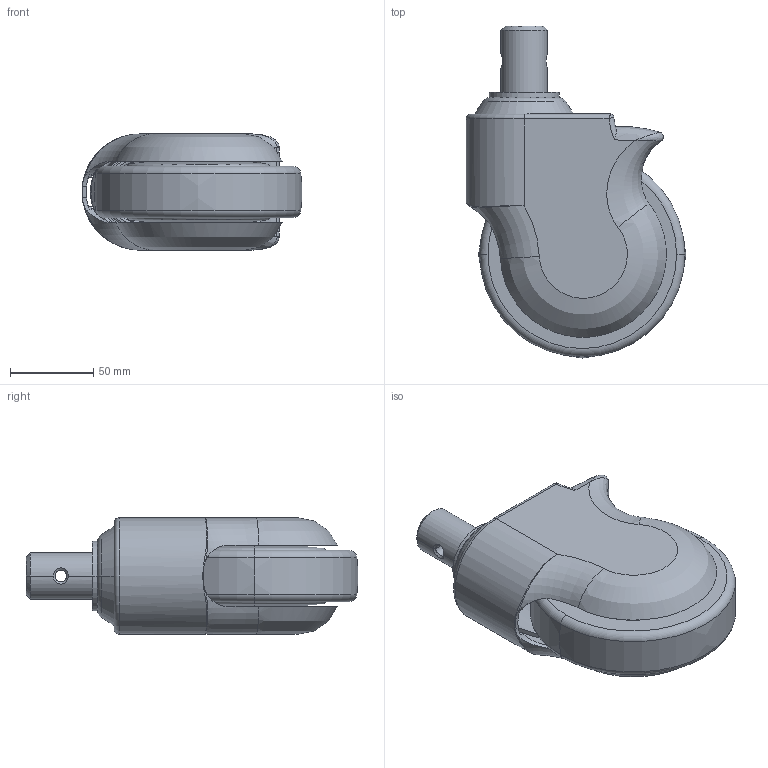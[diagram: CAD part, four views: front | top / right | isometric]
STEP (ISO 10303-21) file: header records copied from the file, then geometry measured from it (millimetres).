
FILE_DESCRIPTION((''),'2;1');
FILE_NAME('E5755-57_ASM','2022-11-01T',('lenovo'),(''),'PRO/ENGINEER BY PARAMETRIC TECHNOLOGY CORPORATION, 2010280','PRO/ENGINEER BY PARAMETRIC TECHNOLOGY CORPORATION, 2010280','');
FILE_SCHEMA(('CONFIG_CONTROL_DESIGN'));
Length unit declared in the file: millimetre
Products named in the file (8): 1; 575-11; 570-03A; 570-36; 570-25; 575-77; E574-6301; E5755-57_ASM
Assembly tree (7 placements, depth 2):
  E5755-57_ASM
    1
    575-11
    570-03A
    570-36
    570-25
    575-77
    E574-6301
Bounding box: 132.43 x 199.91 x 70 mm (x, y, z)
Volume: 561450.7 mm3; surface area: 165913.2 mm2
Topology: 7 solids, 7 shells, 378 faces, 901 edges, 556 vertices
Faces by surface type: cylinder 142, plane 101, torus 72, bspline 37, cone 24, sphere 2
Entity records: 15132 total; most frequent: CARTESIAN_POINT 6259, DIRECTION 1897, ORIENTED_EDGE 1802, EDGE_CURVE 901, AXIS2_PLACEMENT_3D 794, VERTEX_POINT 556, CIRCLE 438, EDGE_LOOP 411
